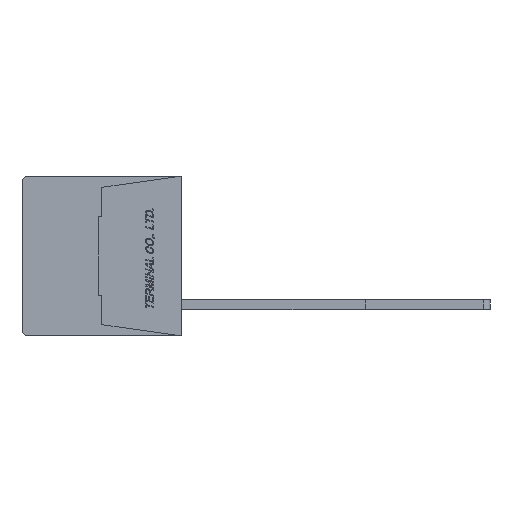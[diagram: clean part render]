
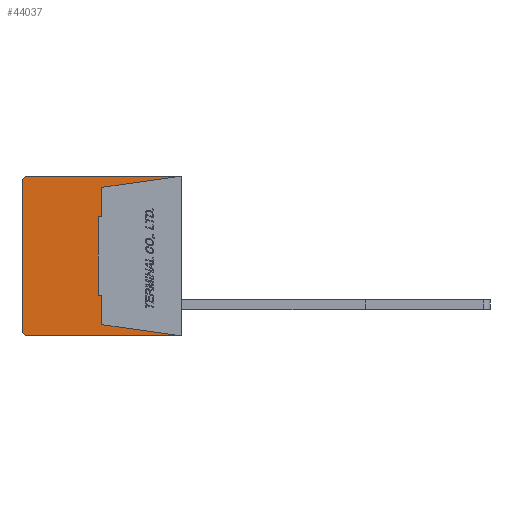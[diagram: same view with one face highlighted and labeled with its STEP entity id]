
A CAD part, left-side view. The second image highlights one B-rep face of the part: STEP entity #44037.
In plain terms, the highlighted planar face has unit normal (-1, 0, 0).
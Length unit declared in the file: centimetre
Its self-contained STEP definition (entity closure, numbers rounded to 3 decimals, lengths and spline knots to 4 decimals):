
#450=CIRCLE('',#75748,0.05);
#451=CIRCLE('',#75749,0.05);
#2676=VERTEX_POINT('',#57787);
#2677=VERTEX_POINT('',#57789);
#2678=VERTEX_POINT('',#57793);
#2679=VERTEX_POINT('',#57797);
#2680=VERTEX_POINT('',#57801);
#2681=VERTEX_POINT('',#57805);
#2682=VERTEX_POINT('',#57809);
#2683=VERTEX_POINT('',#57813);
#2732=VERTEX_POINT('',#58096);
#2733=VERTEX_POINT('',#58098);
#2734=VERTEX_POINT('',#58100);
#2735=VERTEX_POINT('',#58102);
#7298=VECTOR('',#48908,1.);
#7301=VECTOR('',#48912,1.);
#7303=VECTOR('',#48915,1.);
#7305=VECTOR('',#48918,1.);
#7307=VECTOR('',#48921,1.);
#7309=VECTOR('',#48924,1.);
#7311=VECTOR('',#48927,1.);
#7354=VECTOR('',#48980,1.);
#7355=VECTOR('',#48983,1.);
#7356=VECTOR('',#48986,1.);
#12550=LINE('',#57788,#7298);
#12553=LINE('',#57794,#7301);
#12555=LINE('',#57798,#7303);
#12557=LINE('',#57802,#7305);
#12559=LINE('',#57806,#7307);
#12561=LINE('',#57810,#7309);
#12563=LINE('',#57814,#7311);
#12606=LINE('',#58095,#7354);
#12607=LINE('',#58099,#7355);
#12608=LINE('',#58103,#7356);
#17876=EDGE_CURVE('',#2677,#2676,#12550,.T.);
#17879=EDGE_CURVE('',#2676,#2678,#12553,.T.);
#17881=EDGE_CURVE('',#2678,#2679,#12555,.T.);
#17883=EDGE_CURVE('',#2679,#2680,#12557,.T.);
#17885=EDGE_CURVE('',#2680,#2681,#12559,.T.);
#17887=EDGE_CURVE('',#2681,#2682,#12561,.T.);
#17889=EDGE_CURVE('',#2682,#2683,#12563,.T.);
#17962=EDGE_CURVE('',#2683,#2732,#12606,.T.);
#17963=EDGE_CURVE('',#2733,#2732,#450,.T.);
#17964=EDGE_CURVE('',#2733,#2734,#12607,.T.);
#17965=EDGE_CURVE('',#2735,#2734,#451,.T.);
#17966=EDGE_CURVE('',#2735,#2677,#12608,.T.);
#25296=ORIENTED_EDGE('',*,*,#17876,.T.);
#25297=ORIENTED_EDGE('',*,*,#17879,.T.);
#25298=ORIENTED_EDGE('',*,*,#17881,.T.);
#25299=ORIENTED_EDGE('',*,*,#17883,.T.);
#25300=ORIENTED_EDGE('',*,*,#17885,.T.);
#25301=ORIENTED_EDGE('',*,*,#17887,.T.);
#25302=ORIENTED_EDGE('',*,*,#17889,.T.);
#25303=ORIENTED_EDGE('',*,*,#17962,.T.);
#25304=ORIENTED_EDGE('',*,*,#17963,.F.);
#25305=ORIENTED_EDGE('',*,*,#17964,.T.);
#25306=ORIENTED_EDGE('',*,*,#17965,.F.);
#25307=ORIENTED_EDGE('',*,*,#17966,.T.);
#38157=EDGE_LOOP('',(#25296,#25297,#25298,#25299,#25300,#25301,#25302,#25303,
#25304,#25305,#25306,#25307));
#41107=FACE_BOUND('',#38157,.T.);
#44037=ADVANCED_FACE('',(#41107),#46643,.F.);
#46643=PLANE('',#75747);
#48908=DIRECTION('',(0.,0.99,0.139));
#48912=DIRECTION('',(0.,0.,1.));
#48915=DIRECTION('',(0.,1.,0.));
#48918=DIRECTION('',(0.,0.,1.));
#48921=DIRECTION('',(0.,-1.,0.));
#48924=DIRECTION('',(0.,0.,1.));
#48927=DIRECTION('',(0.,-0.99,0.139));
#48979=DIRECTION('',(1.,0.,0.));
#48980=DIRECTION('',(0.,1.,0.));
#48981=DIRECTION('',(1.,0.,0.));
#48982=DIRECTION('',(0.,0.,-0.05));
#48983=DIRECTION('',(0.,0.,-1.));
#48984=DIRECTION('',(1.,0.,0.));
#48985=DIRECTION('',(0.,0.,-0.05));
#48986=DIRECTION('',(0.,-1.,0.));
#57787=CARTESIAN_POINT('',(-0.889,0.64,-0.55));
#57788=CARTESIAN_POINT('',(-0.889,0.5152,-0.5675));
#57789=CARTESIAN_POINT('',(-0.889,0.,-0.64));
#57793=CARTESIAN_POINT('',(-0.889,0.64,-0.315));
#57794=CARTESIAN_POINT('',(-0.889,0.64,-0.2163));
#57797=CARTESIAN_POINT('',(-0.889,0.67,-0.315));
#57798=CARTESIAN_POINT('',(-0.889,0.6447,-0.315));
#57801=CARTESIAN_POINT('',(-0.889,0.67,0.315));
#57802=CARTESIAN_POINT('',(-0.889,0.67,0.));
#57805=CARTESIAN_POINT('',(-0.889,0.64,0.315));
#57806=CARTESIAN_POINT('',(-0.889,0.6447,0.315));
#57809=CARTESIAN_POINT('',(-0.889,0.64,0.55));
#57810=CARTESIAN_POINT('',(-0.889,0.64,0.2162));
#57813=CARTESIAN_POINT('',(-0.889,0.,0.64));
#57814=CARTESIAN_POINT('',(-0.889,0.5152,0.5675));
#58094=CARTESIAN_POINT('',(-0.889,0.6345,0.));
#58095=CARTESIAN_POINT('',(-0.889,0.,0.64));
#58096=CARTESIAN_POINT('',(-0.889,1.23,0.64));
#58097=CARTESIAN_POINT('',(-0.889,1.23,0.59));
#58098=CARTESIAN_POINT('',(-0.889,1.28,0.59));
#58099=CARTESIAN_POINT('',(-0.889,1.28,0.59));
#58100=CARTESIAN_POINT('',(-0.889,1.28,-0.59));
#58101=CARTESIAN_POINT('',(-0.889,1.23,-0.59));
#58102=CARTESIAN_POINT('',(-0.889,1.23,-0.64));
#58103=CARTESIAN_POINT('',(-0.889,1.23,-0.64));
#75747=AXIS2_PLACEMENT_3D('',#58094,#48979,$);
#75748=AXIS2_PLACEMENT_3D('',#58097,#48981,#48982);
#75749=AXIS2_PLACEMENT_3D('',#58101,#48984,#48985);
